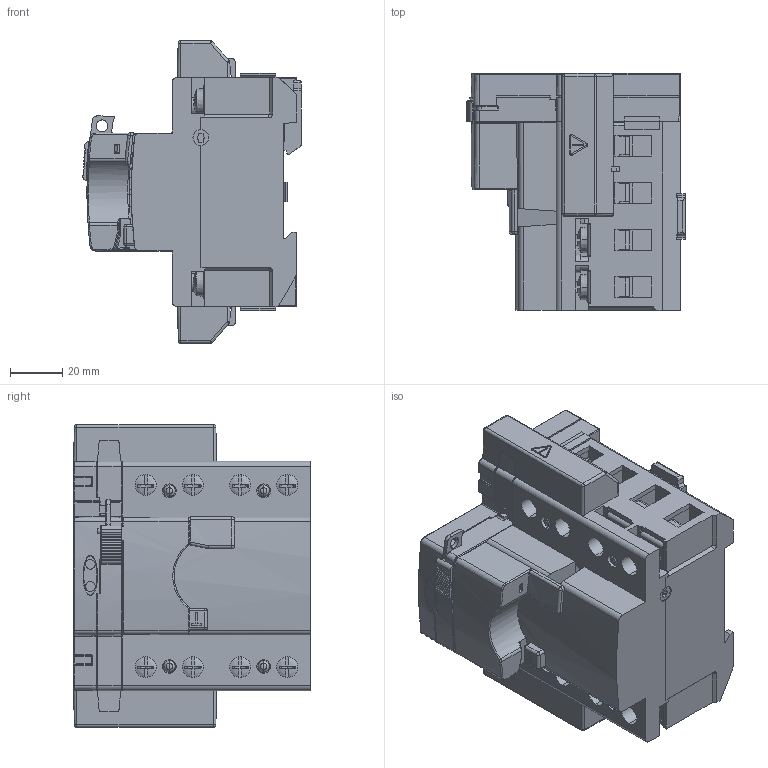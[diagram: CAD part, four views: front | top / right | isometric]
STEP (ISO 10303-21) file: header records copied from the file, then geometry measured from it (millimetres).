
FILE_DESCRIPTION((''),'2;1');
FILE_NAME('027920_ASM_15_SW0001','2021-09-21T09:32:48',('esors'),(''),'CREO PARAMETRIC BY PTC INC, 2018260','CREO PARAMETRIC BY PTC INC, 2018260','');
FILE_SCHEMA(('AUTOMOTIVE_DESIGN { 1 0 10303 214 1 1 1 1 }'));
Products named in the file (1): 027920_ASM_15_SW0001
Bounding box: 83.33 x 90.3 x 115.5 mm (x, y, z)
Volume: 254632.7 mm3; surface area: 129924.7 mm2
Topology: 3 solids, 4 shells, 6584 faces, 18213 edges, 11360 vertices
Faces by surface type: plane 3764, cylinder 1326, bspline 427, cone 395, torus 355, sphere 317
Entity records: 234772 total; most frequent: CARTESIAN_POINT 69348, ORIENTED_EDGE 35832, DIRECTION 32100, EDGE_CURVE 17916, VECTOR 11692, LINE 11692, VERTEX_POINT 11360, AXIS2_PLACEMENT_3D 10204
